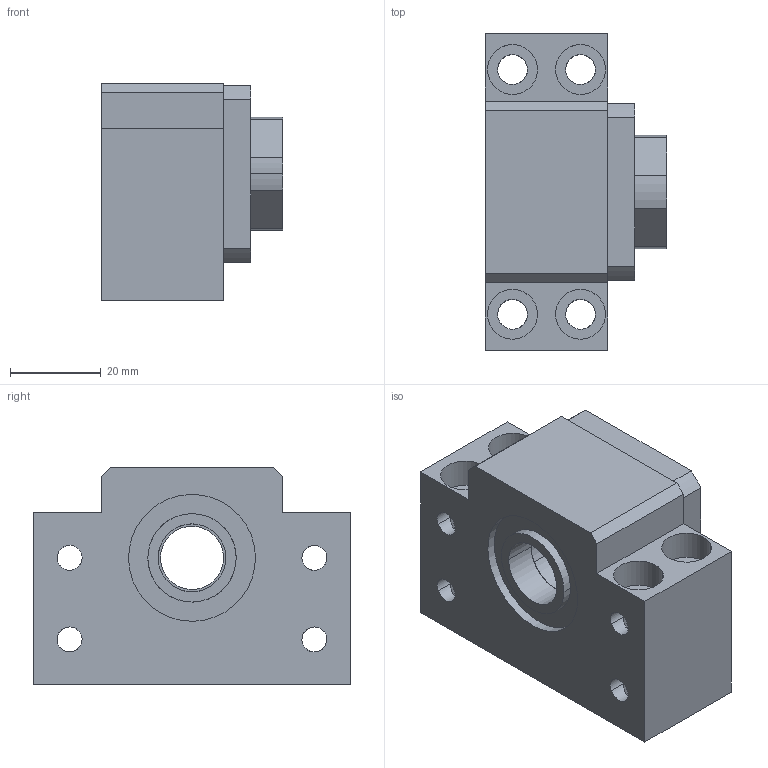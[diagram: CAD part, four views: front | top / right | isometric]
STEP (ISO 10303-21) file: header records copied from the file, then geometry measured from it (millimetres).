
FILE_DESCRIPTION(('CATIA V5 STEP Exchange'),'2;1');
FILE_NAME('D:\서포트 완성도면\BK\BK15.stp','2014-02-07T10:40:03+00:00',('none'),('none'),'CATIA Version 5 Release 18 GA (IN-10)','CATIA V5 STEP AP203','none');
FILE_SCHEMA(('CONFIG_CONTROL_DESIGN'));
Length unit declared in the file: millimetre
Products named in the file (1): BK15
Assembly tree (4 placements, depth 2):
  BK15
    #56
    #3229  x2
    #3416
Bounding box: 40 x 70 x 48 mm (x, y, z)
Volume: 78103.2 mm3; surface area: 22172.4 mm2
Topology: 4 solids, 4 shells, 105 faces, 312 edges, 208 vertices
Faces by surface type: cylinder 70, plane 35
Entity records: 3813 total; most frequent: CARTESIAN_POINT 1248, ORIENTED_EDGE 600, DIRECTION 356, EDGE_CURVE 300, VERTEX_POINT 200, AXIS2_PLACEMENT_3D 160, VECTOR 136, LINE 136
